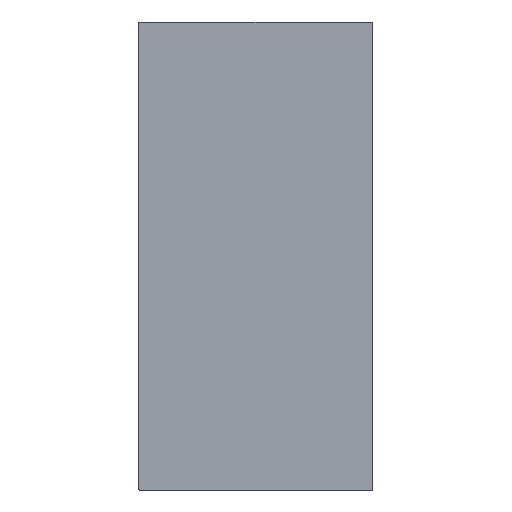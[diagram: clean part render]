
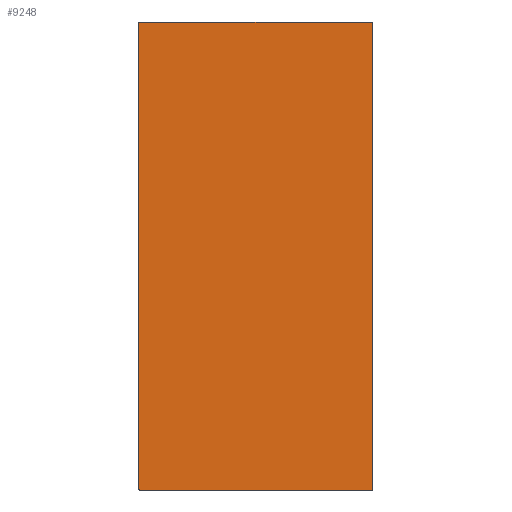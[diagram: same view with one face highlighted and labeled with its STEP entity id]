
A CAD part, front view. The second image highlights one B-rep face of the part: STEP entity #9248.
In plain terms, the highlighted planar face has unit normal (0, -1, 0).
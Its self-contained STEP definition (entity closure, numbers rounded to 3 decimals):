
#95=PLANE('',#10715);
#846=LINE('',#16965,#1370);
#849=LINE('',#16973,#1373);
#851=LINE('',#16982,#1375);
#854=LINE('',#17008,#1378);
#1370=VECTOR('',#14060,10.);
#1373=VECTOR('',#14069,10.);
#1375=VECTOR('',#14081,10.);
#1378=VECTOR('',#14128,10.);
#2264=FACE_OUTER_BOUND('',#2870,.T.);
#2870=EDGE_LOOP('',(#8594,#8595,#8596,#8597,#8598,#8599,#8600,#8601));
#3710=CIRCLE('',#10684,2.);
#3711=CIRCLE('',#10687,2.);
#3712=CIRCLE('',#10691,2.);
#3713=CIRCLE('',#10695,2.);
#4476=VERTEX_POINT('',#16957);
#4477=VERTEX_POINT('',#16959);
#4478=VERTEX_POINT('',#16963);
#4479=VERTEX_POINT('',#16967);
#4480=VERTEX_POINT('',#16971);
#4481=VERTEX_POINT('',#16976);
#4482=VERTEX_POINT('',#16981);
#4483=VERTEX_POINT('',#16985);
#5843=EDGE_CURVE('',#4476,#4477,#3710,.T.);
#5846=EDGE_CURVE('',#4476,#4478,#846,.T.);
#5848=EDGE_CURVE('',#4479,#4478,#3711,.T.);
#5850=EDGE_CURVE('',#4479,#4480,#849,.T.);
#5852=EDGE_CURVE('',#4481,#4480,#3712,.T.);
#5853=EDGE_CURVE('',#4482,#4477,#851,.T.);
#5855=EDGE_CURVE('',#4482,#4483,#3713,.T.);
#5857=EDGE_CURVE('',#4481,#4483,#854,.T.);
#8594=ORIENTED_EDGE('',*,*,#5852,.F.);
#8595=ORIENTED_EDGE('',*,*,#5857,.T.);
#8596=ORIENTED_EDGE('',*,*,#5855,.F.);
#8597=ORIENTED_EDGE('',*,*,#5853,.T.);
#8598=ORIENTED_EDGE('',*,*,#5843,.F.);
#8599=ORIENTED_EDGE('',*,*,#5846,.T.);
#8600=ORIENTED_EDGE('',*,*,#5848,.F.);
#8601=ORIENTED_EDGE('',*,*,#5850,.T.);
#9248=ADVANCED_FACE('',(#2264),#95,.T.);
#10684=AXIS2_PLACEMENT_3D('',#16960,#14054,#14055);
#10687=AXIS2_PLACEMENT_3D('',#16969,#14064,#14065);
#10691=AXIS2_PLACEMENT_3D('',#16978,#14075,#14076);
#10695=AXIS2_PLACEMENT_3D('',#16986,#14085,#14086);
#10715=AXIS2_PLACEMENT_3D('',#17007,#14126,#14127);
#14054=DIRECTION('center_axis',(0.,1.,0.));
#14055=DIRECTION('ref_axis',(-0.707,0.,0.707));
#14060=DIRECTION('',(0.,0.,-1.));
#14064=DIRECTION('center_axis',(0.,1.,0.));
#14065=DIRECTION('ref_axis',(-0.707,0.,-0.707));
#14069=DIRECTION('',(1.,0.,0.));
#14075=DIRECTION('center_axis',(0.,1.,0.));
#14076=DIRECTION('ref_axis',(0.707,0.,-0.707));
#14081=DIRECTION('',(-1.,0.,0.));
#14085=DIRECTION('center_axis',(0.,1.,0.));
#14086=DIRECTION('ref_axis',(0.707,0.,0.707));
#14126=DIRECTION('center_axis',(0.,-1.,0.));
#14127=DIRECTION('ref_axis',(0.,0.,-1.));
#14128=DIRECTION('',(0.,0.,1.));
#16957=CARTESIAN_POINT('',(-250.,-9.,498.));
#16959=CARTESIAN_POINT('',(-248.,-9.,500.));
#16960=CARTESIAN_POINT('Origin',(-248.,-9.,498.));
#16963=CARTESIAN_POINT('',(-250.,-9.,-498.));
#16965=CARTESIAN_POINT('',(-250.,-9.,-500.));
#16967=CARTESIAN_POINT('',(-248.,-9.,-500.));
#16969=CARTESIAN_POINT('Origin',(-248.,-9.,-498.));
#16971=CARTESIAN_POINT('',(248.,-9.,-500.));
#16973=CARTESIAN_POINT('',(250.,-9.,-500.));
#16976=CARTESIAN_POINT('',(250.,-9.,-498.));
#16978=CARTESIAN_POINT('Origin',(248.,-9.,-498.));
#16981=CARTESIAN_POINT('',(248.,-9.,500.));
#16982=CARTESIAN_POINT('',(-250.,-9.,500.));
#16985=CARTESIAN_POINT('',(250.,-9.,498.));
#16986=CARTESIAN_POINT('Origin',(248.,-9.,498.));
#17007=CARTESIAN_POINT('Origin',(0.,-9.,0.));
#17008=CARTESIAN_POINT('',(250.,-9.,500.));
